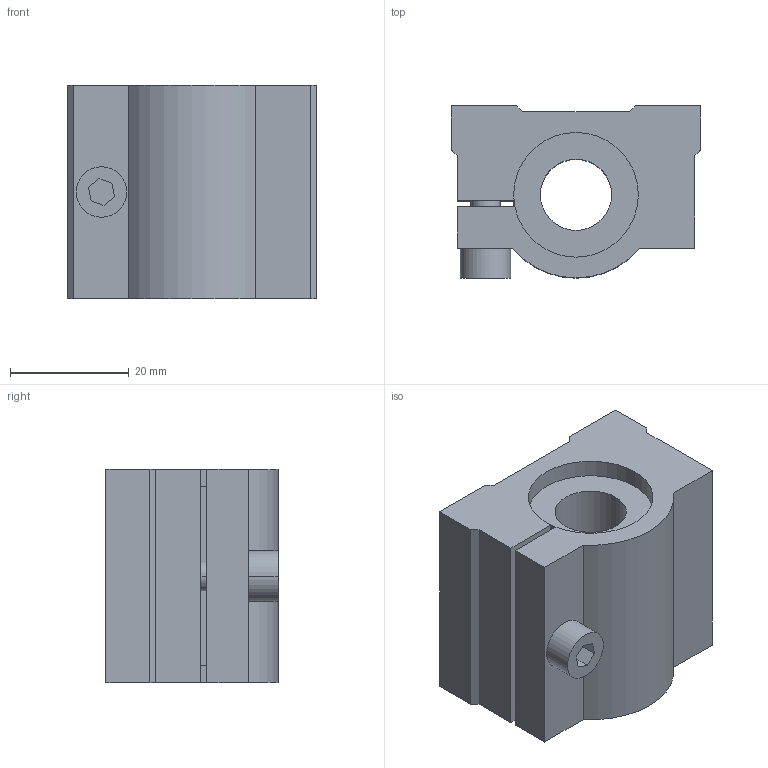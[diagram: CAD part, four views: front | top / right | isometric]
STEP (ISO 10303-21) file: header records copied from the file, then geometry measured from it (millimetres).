
FILE_DESCRIPTION((''),'2;1');
FILE_NAME('C:\Documents and Settings\ｿﾀﾀ蠑ｷ1\ｹﾙﾅﾁ ﾈｭｸ饅\ｺﾎﾇｰﾆﾄﾀﾏ\ﾁｦﾇｰ\SCJ__UU\SCJ12UU.stp','2005-06-22T17:42:37',('ｿﾀﾀ蠑ｷ1'),(''),'Autodesk Inventor 9','Autodesk Inventor 9','');
FILE_SCHEMA(('AUTOMOTIVE_DESIGN { 1 0 10303 214 1 1 1 1 }'));
Length unit declared in the file: millimetre
Products named in the file (1): SCJ__UU
Bounding box: 42 x 29 x 36 mm (x, y, z)
Volume: 30909.4 mm3; surface area: 9659.1 mm2
Topology: 1 solids, 1 shells, 56 faces, 142 edges, 88 vertices
Faces by surface type: plane 29, bspline 16, cylinder 11
Entity records: 1863 total; most frequent: CARTESIAN_POINT 551, ORIENTED_EDGE 268, DIRECTION 254, EDGE_CURVE 134, VECTOR 96, LINE 96, VERTEX_POINT 88, AXIS2_PLACEMENT_3D 79
